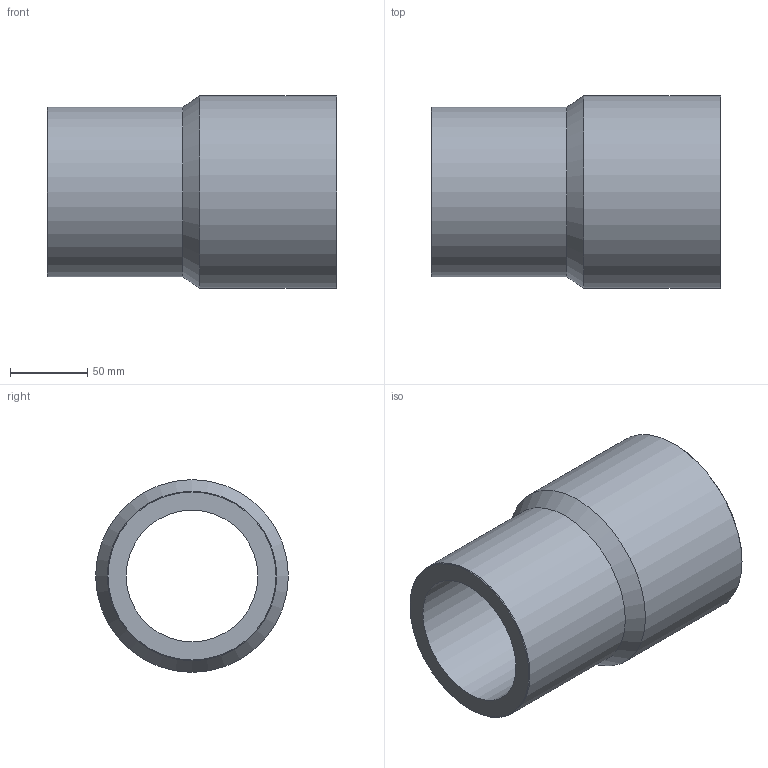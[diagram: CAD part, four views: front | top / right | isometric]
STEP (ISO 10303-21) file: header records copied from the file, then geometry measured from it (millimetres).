
FILE_DESCRIPTION(/* description */ ('Unknown'),/* implementation_level */ '2;1');
FILE_NAME(/* name */ 'RP125110G',/* time_stamp */ '2021-09-16T16:53:16+02:00',/* author */ ('Unknown'),/* organization */ ('Unknown'),/* preprocessor_version */ 'ST-DEVELOPER v16.7',/* originating_system */ 'Solid Edge',/* authorisation */ 'Unknown');
FILE_SCHEMA (('AUTOMOTIVE_DESIGN {1 0 10303 214 3 1 1}'));
Length unit declared in the file: millimetre
Products named in the file (1): RP125110G
Bounding box: 188 x 125 x 125 mm (x, y, z)
Volume: 824903 mm3; surface area: 132808.7 mm2
Topology: 1 solids, 1 shells, 10 faces, 19 edges, 11 vertices
Faces by surface type: cylinder 4, cone 4, plane 2
Full cylindrical faces by diameter (mm): 85.4 x1, 97 x1, 110 x1, 125 x1
Entity records: 238 total; most frequent: DIRECTION 42, CARTESIAN_POINT 31, AXIS2_PLACEMENT_3D 21, ORIENTED_EDGE 20, EDGE_LOOP 20, FACE_BOUND 20, EDGE_CURVE 10, VERTEX_POINT 10
